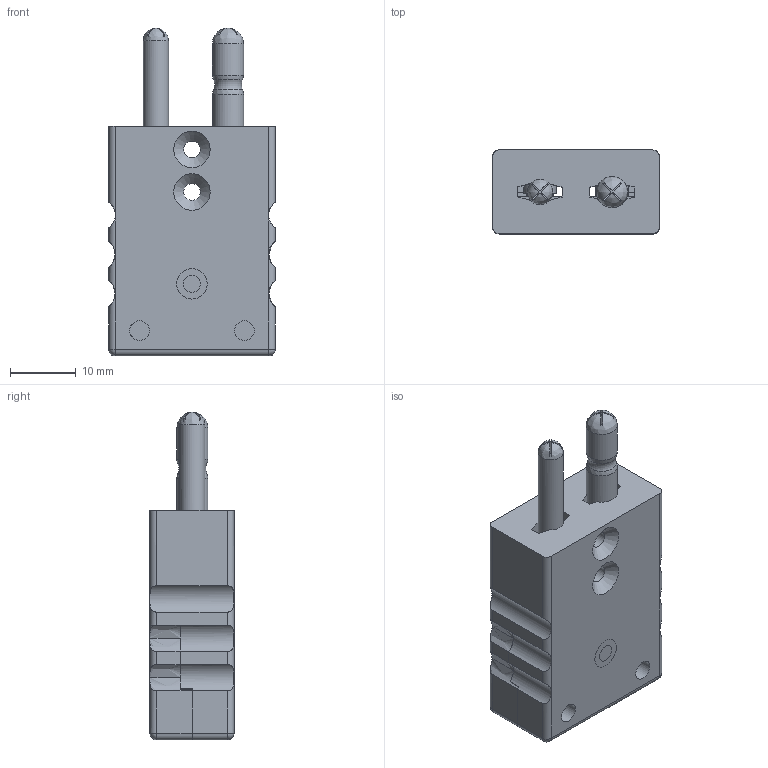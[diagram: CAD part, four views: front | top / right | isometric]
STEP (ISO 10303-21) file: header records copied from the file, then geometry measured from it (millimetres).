
FILE_DESCRIPTION(/* description */ (''),/* implementation_level */ '2;1');
FILE_NAME(/* name */ 'CON-MP-STD-K ASSEMBLY.stp',/* time_stamp */ '2023-06-09T13:40:48-04:00',/* author */ ('Justin'),/* organization */ (''),/* preprocessor_version */ 'ST-DEVELOPER v19.2',/* originating_system */ 'Autodesk Inventor 2024',/* authorisation */ '');
FILE_SCHEMA (('AUTOMOTIVE_DESIGN { 1 0 10303 214 3 1 1 }'));
Products named in the file (7): CON-MP-STD-K ASSEMBLY; CON-MP-STD-K Body; Type K-MP--Cover; Nut; Negative Pin; Negative Pin_1; Screw GB 946 M2.5 x 1
Assembly tree (7 placements, depth 2):
  CON-MP-STD-K ASSEMBLY
    CON-MP-STD-K Body
    Type K-MP--Cover
    Nut
    Negative Pin
    Negative Pin_1
    Screw GB 946 M2.5 x 1  x2
Bounding box: 25.41 x 12.83 x 50 mm (x, y, z)
Volume: 9367.7 mm3; surface area: 8543 mm2
Topology: 11 solids, 12 shells, 360 faces, 939 edges, 603 vertices
Faces by surface type: plane 169, cylinder 105, bspline 44, sphere 20, torus 18, cone 4
Full cylindrical faces by diameter (mm): 0 x1, 2.55 x2, 2.6 x10, 3 x2, 3.342 x1, 3.734 x1, 3.85 x3, 4.65 x6, 4.75 x2, 5 x2, 7 x4
Entity records: 13285 total; most frequent: CARTESIAN_POINT 4685, ORIENTED_EDGE 1776, DIRECTION 1653, EDGE_CURVE 889, AXIS2_PLACEMENT_3D 591, VERTEX_POINT 575, LINE 471, VECTOR 471
